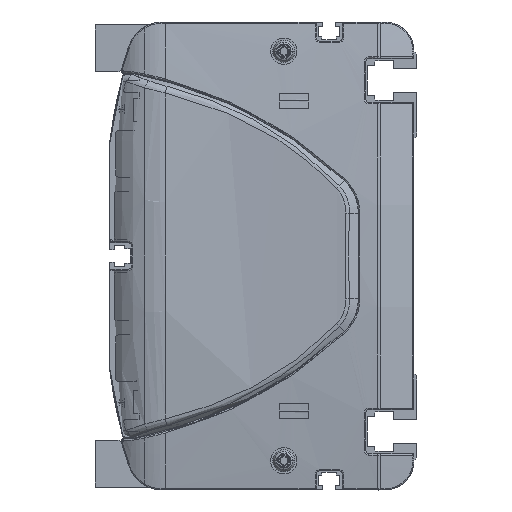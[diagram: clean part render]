
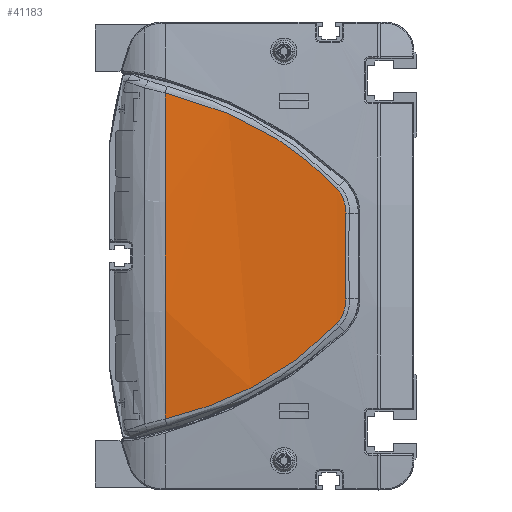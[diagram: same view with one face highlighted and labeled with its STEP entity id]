
A CAD part, left-side view. The second image highlights one B-rep face of the part: STEP entity #41183.
In plain terms, the highlighted cylindrical face has radius 600 mm (diameter 1200 mm), a partial arc.
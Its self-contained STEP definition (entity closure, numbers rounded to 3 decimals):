
#36464=CARTESIAN_POINT('',(-12.406,86.,
55.736));
#36465=CARTESIAN_POINT('',(-12.529,80.495,
54.41));
#36466=CARTESIAN_POINT('',(-12.828,69.636,
51.114));
#36467=CARTESIAN_POINT('',(-13.389,54.079,
44.179));
#36468=CARTESIAN_POINT('',(-14.01,39.709,
34.979));
#36469=CARTESIAN_POINT('',(-14.395,31.353,
27.243));
#36470=CARTESIAN_POINT('',(-14.555,27.451,
23.113));
#36472=CARTESIAN_POINT('',(-14.555,27.451,
23.113));
#36473=CARTESIAN_POINT('',(-14.598,26.394,
21.994));
#36474=CARTESIAN_POINT('',(-14.695,24.746,
19.315));
#36475=CARTESIAN_POINT('',(-14.783,24.276,
16.208));
#36476=CARTESIAN_POINT('',(-14.821,24.351,
14.67));
#36478=CARTESIAN_POINT('',(-14.821,24.351,
14.67));
#36479=CARTESIAN_POINT('',(-14.9,24.51,
11.413));
#36480=CARTESIAN_POINT('',(-15.007,24.721,
4.895));
#36481=CARTESIAN_POINT('',(-15.007,24.721,
-4.895));
#36482=CARTESIAN_POINT('',(-14.9,24.51,
-11.413));
#36483=CARTESIAN_POINT('',(-14.821,24.351,
-14.67));
#36485=CARTESIAN_POINT('',(-14.821,24.351,
-14.67));
#36486=CARTESIAN_POINT('',(-14.783,24.276,
-16.208));
#36487=CARTESIAN_POINT('',(-14.695,24.746,
-19.315));
#36488=CARTESIAN_POINT('',(-14.598,26.394,
-21.995));
#36489=CARTESIAN_POINT('',(-14.555,27.451,
-23.113));
#36491=CARTESIAN_POINT('',(-14.555,27.451,
-23.113));
#36492=CARTESIAN_POINT('',(-14.395,31.353,
-27.243));
#36493=CARTESIAN_POINT('',(-14.01,39.709,
-34.979));
#36494=CARTESIAN_POINT('',(-13.389,54.079,
-44.179));
#36495=CARTESIAN_POINT('',(-12.828,69.636,
-51.114));
#36496=CARTESIAN_POINT('',(-12.529,80.495,
-54.41));
#36497=CARTESIAN_POINT('',(-12.406,86.,
-55.736));
#36499=CARTESIAN_POINT('',(585.,86.,0.));
#36500=DIRECTION('',(0.,1.,0.));
#36501=DIRECTION('',(-0.996,0.,-0.093));
#36502=AXIS2_PLACEMENT_3D('',#36499,#36500,#36501);
#36515=CARTESIAN_POINT('',(-12.406,86.,
55.736));
#37309=VERTEX_POINT('',#36515);
#37310=CARTESIAN_POINT('',(-12.406,86.,
-55.736));
#37311=VERTEX_POINT('',#37310);
#37361=VERTEX_POINT('',#36470);
#37362=VERTEX_POINT('',#36476);
#37363=VERTEX_POINT('',#36483);
#37364=VERTEX_POINT('',#36489);
#41165=CARTESIAN_POINT('',(585.,87.45,0.));
#41166=DIRECTION('',(0.,-1.,0.));
#41167=DIRECTION('',(0.,0.,-1.));
#41168=AXIS2_PLACEMENT_3D('',#41165,#41166,#41167);
#41169=CYLINDRICAL_SURFACE('',#41168,600.);
#41171=ORIENTED_EDGE('',*,*,#41170,.T.);
#41173=ORIENTED_EDGE('',*,*,#41172,.T.);
#41174=ORIENTED_EDGE('',*,*,#41155,.T.);
#41176=ORIENTED_EDGE('',*,*,#41175,.T.);
#41178=ORIENTED_EDGE('',*,*,#41177,.T.);
#41180=ORIENTED_EDGE('',*,*,#41179,.T.);
#41181=EDGE_LOOP('',(#41171,#41173,#41174,#41176,#41178,#41180));
#41182=FACE_OUTER_BOUND('',#41181,.F.);
#41183=ADVANCED_FACE('',(#41182),#41169,.T.);
#36471=B_SPLINE_CURVE_WITH_KNOTS('',3,(#36464,#36465,#36466,#36467,#36468,
#36469,#36470),.UNSPECIFIED.,.F.,.F.,(4,1,1,1,4),(0.,0.25,0.5,0.75,
1.),.UNSPECIFIED.);
#36477=B_SPLINE_CURVE_WITH_KNOTS('',3,(#36472,#36473,#36474,#36475,#36476),
.UNSPECIFIED.,.F.,.F.,(4,1,4),(0.,0.5,1.),.UNSPECIFIED.);
#36484=B_SPLINE_CURVE_WITH_KNOTS('',3,(#36478,#36479,#36480,#36481,#36482,
#36483),.UNSPECIFIED.,.F.,.F.,(4,1,1,4),(0.,0.333,
0.667,1.),.UNSPECIFIED.);
#36490=B_SPLINE_CURVE_WITH_KNOTS('',3,(#36485,#36486,#36487,#36488,#36489),
.UNSPECIFIED.,.F.,.F.,(4,1,4),(0.,0.5,1.),.UNSPECIFIED.);
#36498=B_SPLINE_CURVE_WITH_KNOTS('',3,(#36491,#36492,#36493,#36494,#36495,
#36496,#36497),.UNSPECIFIED.,.F.,.F.,(4,1,1,1,4),(0.,0.25,0.5,0.75,
1.),.UNSPECIFIED.);
#36503=CIRCLE('',#36502,600.);
#41155=EDGE_CURVE('',#37362,#37363,#36484,.T.);
#41170=EDGE_CURVE('',#37309,#37361,#36471,.T.);
#41172=EDGE_CURVE('',#37361,#37362,#36477,.T.);
#41175=EDGE_CURVE('',#37363,#37364,#36490,.T.);
#41177=EDGE_CURVE('',#37364,#37311,#36498,.T.);
#41179=EDGE_CURVE('',#37311,#37309,#36503,.T.);
